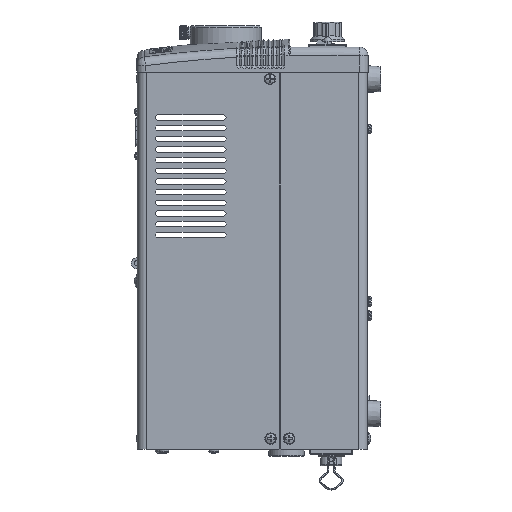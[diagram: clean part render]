
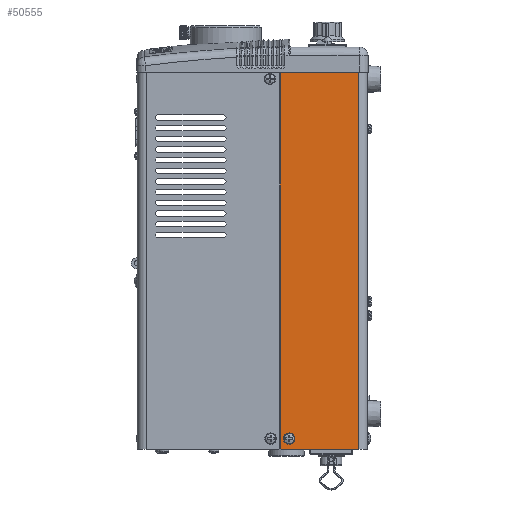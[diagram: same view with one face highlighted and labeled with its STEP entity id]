
A CAD part, left-side view. The second image highlights one B-rep face of the part: STEP entity #50555.
In plain terms, the highlighted planar face has unit normal (-1, 0, 0).
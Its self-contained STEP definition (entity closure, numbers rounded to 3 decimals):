
#446 = DIRECTION ( 'NONE',  ( 1., 0., 0. ) ) ;
#1013 = EDGE_CURVE ( 'NONE', #149676, #9373, #117507, .T. ) ;
#2651 = EDGE_LOOP ( 'NONE', ( #7598, #35069, #7132, #166934, #139248, #104731 ) ) ;
#2707 = VERTEX_POINT ( 'NONE', #114452 ) ;
#5670 = DIRECTION ( 'NONE',  ( -1., 0., 0. ) ) ;
#7132 = ORIENTED_EDGE ( 'NONE', *, *, #157848, .T. ) ;
#7598 = ORIENTED_EDGE ( 'NONE', *, *, #159205, .T. ) ;
#9373 = VERTEX_POINT ( 'NONE', #113566 ) ;
#10084 = CARTESIAN_POINT ( 'NONE',  ( -57.5, 19.5, -96.75 ) ) ;
#10431 = DIRECTION ( 'NONE',  ( 0., -1., 0. ) ) ;
#12842 = CARTESIAN_POINT ( 'NONE',  ( -57.5, 19.5, -100. ) ) ;
#13868 = CIRCLE ( 'NONE', #51585, 1. ) ;
#16984 = EDGE_CURVE ( 'NONE', #69369, #2707, #67625, .T. ) ;
#17683 = AXIS2_PLACEMENT_3D ( 'NONE', #57663, #446, #97792 ) ;
#20821 = VERTEX_POINT ( 'NONE', #147206 ) ;
#23615 = DIRECTION ( 'NONE',  ( 0., -1., 0. ) ) ;
#23751 = CARTESIAN_POINT ( 'NONE',  ( -57.5, 23.5, -105. ) ) ;
#29981 = DIRECTION ( 'NONE',  ( -1., 0., 0. ) ) ;
#35069 = ORIENTED_EDGE ( 'NONE', *, *, #172951, .T. ) ;
#37542 = EDGE_CURVE ( 'NONE', #2707, #69369, #121989, .T. ) ;
#43321 = VECTOR ( 'NONE', #23615, 1000. ) ;
#43620 = CARTESIAN_POINT ( 'NONE',  ( -57.5, 23.5, 105. ) ) ;
#44062 = DIRECTION ( 'NONE',  ( 0., 0., 1. ) ) ;
#47129 = ORIENTED_EDGE ( 'NONE', *, *, #37542, .F. ) ;
#47403 = CARTESIAN_POINT ( 'NONE',  ( -57.5, -19.5, 106. ) ) ;
#50555 = ADVANCED_FACE ( 'NONE', ( #86821, #100467 ), #155959, .F. ) ;
#50891 = LINE ( 'NONE', #106465, #43321 ) ;
#51585 = AXIS2_PLACEMENT_3D ( 'NONE', #43620, #29981, #60873 ) ;
#56078 = CARTESIAN_POINT ( 'NONE',  ( -57.5, 24.5, -105. ) ) ;
#57663 = CARTESIAN_POINT ( 'NONE',  ( -57.5, -24.5, 106. ) ) ;
#57736 = CARTESIAN_POINT ( 'NONE',  ( -57.5, 19.5, -100. ) ) ;
#60558 = VECTOR ( 'NONE', #78987, 1000. ) ;
#60873 = DIRECTION ( 'NONE',  ( 0., 0., -1. ) ) ;
#61489 = VERTEX_POINT ( 'NONE', #179586 ) ;
#66187 = VERTEX_POINT ( 'NONE', #56078 ) ;
#67625 = CIRCLE ( 'NONE', #169376, 3.25 ) ;
#68338 = DIRECTION ( 'NONE',  ( 0., 0., 1. ) ) ;
#69369 = VERTEX_POINT ( 'NONE', #10084 ) ;
#78987 = DIRECTION ( 'NONE',  ( 0., 0., -1. ) ) ;
#82912 = DIRECTION ( 'NONE',  ( -1., 0., 0. ) ) ;
#86376 = CIRCLE ( 'NONE', #144549, 1. ) ;
#86821 = FACE_BOUND ( 'NONE', #104606, .T. ) ;
#88862 = VERTEX_POINT ( 'NONE', #143899 ) ;
#97792 = DIRECTION ( 'NONE',  ( 0., 0., -1. ) ) ;
#100467 = FACE_OUTER_BOUND ( 'NONE', #2651, .T. ) ;
#104606 = EDGE_LOOP ( 'NONE', ( #170759, #47129 ) ) ;
#104731 = ORIENTED_EDGE ( 'NONE', *, *, #176007, .T. ) ;
#106465 = CARTESIAN_POINT ( 'NONE',  ( -57.5, -24.5, 106. ) ) ;
#106607 = DIRECTION ( 'NONE',  ( 0., 0., -1. ) ) ;
#113566 = CARTESIAN_POINT ( 'NONE',  ( -57.5, -19.5, 106. ) ) ;
#114272 = CARTESIAN_POINT ( 'NONE',  ( -57.5, -19.5, -106. ) ) ;
#114452 = CARTESIAN_POINT ( 'NONE',  ( -57.5, 19.5, -103.25 ) ) ;
#117507 = LINE ( 'NONE', #47403, #120233 ) ;
#120233 = VECTOR ( 'NONE', #132988, 1000. ) ;
#120331 = EDGE_CURVE ( 'NONE', #20821, #9373, #50891, .T. ) ;
#121989 = CIRCLE ( 'NONE', #155865, 3.25 ) ;
#129333 = CARTESIAN_POINT ( 'NONE',  ( -57.5, 24.5, 106. ) ) ;
#131423 = DIRECTION ( 'NONE',  ( -1., 0., 0. ) ) ;
#132988 = DIRECTION ( 'NONE',  ( 0., 0., 1. ) ) ;
#136906 = CARTESIAN_POINT ( 'NONE',  ( -57.5, -24.5, -106. ) ) ;
#139248 = ORIENTED_EDGE ( 'NONE', *, *, #120331, .F. ) ;
#143899 = CARTESIAN_POINT ( 'NONE',  ( -57.5, 24.5, 105. ) ) ;
#144549 = AXIS2_PLACEMENT_3D ( 'NONE', #23751, #5670, #106607 ) ;
#147206 = CARTESIAN_POINT ( 'NONE',  ( -57.5, 23.5, 106. ) ) ;
#147495 = VECTOR ( 'NONE', #10431, 1000. ) ;
#147863 = LINE ( 'NONE', #136906, #147495 ) ;
#149676 = VERTEX_POINT ( 'NONE', #114272 ) ;
#155865 = AXIS2_PLACEMENT_3D ( 'NONE', #12842, #82912, #68338 ) ;
#155959 = PLANE ( 'NONE',  #17683 ) ;
#156628 = LINE ( 'NONE', #129333, #60558 ) ;
#157848 = EDGE_CURVE ( 'NONE', #61489, #149676, #147863, .T. ) ;
#159205 = EDGE_CURVE ( 'NONE', #88862, #66187, #156628, .T. ) ;
#166934 = ORIENTED_EDGE ( 'NONE', *, *, #1013, .T. ) ;
#169376 = AXIS2_PLACEMENT_3D ( 'NONE', #57736, #131423, #44062 ) ;
#170759 = ORIENTED_EDGE ( 'NONE', *, *, #16984, .F. ) ;
#172951 = EDGE_CURVE ( 'NONE', #66187, #61489, #86376, .T. ) ;
#176007 = EDGE_CURVE ( 'NONE', #20821, #88862, #13868, .T. ) ;
#179586 = CARTESIAN_POINT ( 'NONE',  ( -57.5, 23.5, -106. ) ) ;
